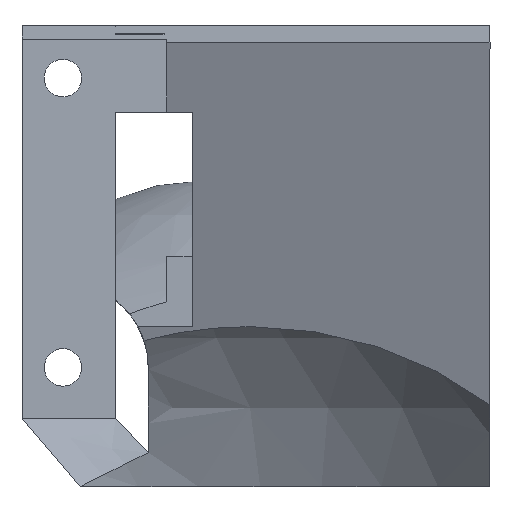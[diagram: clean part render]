
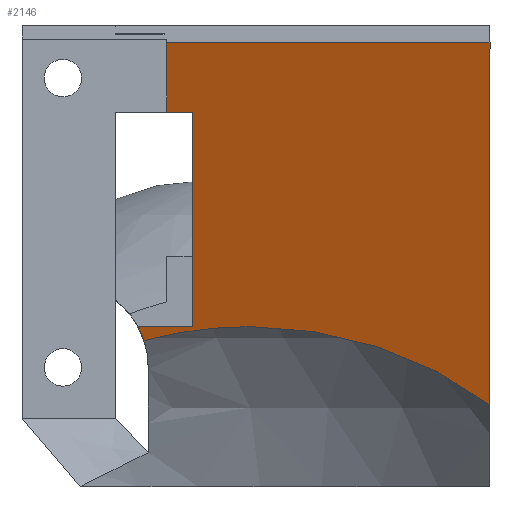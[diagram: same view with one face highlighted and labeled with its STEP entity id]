
A CAD part, left-side view. The second image highlights one B-rep face of the part: STEP entity #2146.
In plain terms, the highlighted planar face has unit normal (-0.931, 0, -0.364).
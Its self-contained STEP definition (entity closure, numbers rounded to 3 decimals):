
#24=ELLIPSE('',#2307,5.392,5.021);
#126=PLANE('',#2308);
#233=FACE_OUTER_BOUND('',#360,.T.);
#360=EDGE_LOOP('',(#1771,#1772,#1773,#1774,#1775,#1776,#1777,#1778,#1779,
#1780));
#448=CIRCLE('',#2285,22.617);
#450=CIRCLE('',#2287,22.617);
#626=LINE('',#3544,#850);
#627=LINE('',#3545,#851);
#628=LINE('',#3547,#852);
#629=LINE('',#3549,#853);
#630=LINE('',#3551,#854);
#631=LINE('',#3552,#855);
#632=LINE('',#3553,#856);
#850=VECTOR('',#2741,10.);
#851=VECTOR('',#2742,10.);
#852=VECTOR('',#2743,10.);
#853=VECTOR('',#2744,10.);
#854=VECTOR('',#2745,10.);
#855=VECTOR('',#2746,10.);
#856=VECTOR('',#2747,10.);
#967=VERTEX_POINT('',#3091);
#1058=VERTEX_POINT('',#3469);
#1059=VERTEX_POINT('',#3471);
#1061=VERTEX_POINT('',#3475);
#1078=VERTEX_POINT('',#3527);
#1080=VERTEX_POINT('',#3542);
#1081=VERTEX_POINT('',#3543);
#1082=VERTEX_POINT('',#3546);
#1083=VERTEX_POINT('',#3548);
#1084=VERTEX_POINT('',#3550);
#1314=EDGE_CURVE('',#1058,#1059,#448,.T.);
#1316=EDGE_CURVE('',#1059,#1061,#450,.T.);
#1339=EDGE_CURVE('',#1061,#1078,#24,.T.);
#1340=EDGE_CURVE('',#1080,#1081,#626,.T.);
#1341=EDGE_CURVE('',#967,#1081,#627,.T.);
#1342=EDGE_CURVE('',#1082,#967,#628,.T.);
#1343=EDGE_CURVE('',#1082,#1083,#629,.T.);
#1344=EDGE_CURVE('',#1083,#1084,#630,.T.);
#1345=EDGE_CURVE('',#1084,#1078,#631,.T.);
#1346=EDGE_CURVE('',#1080,#1058,#632,.T.);
#1771=ORIENTED_EDGE('',*,*,#1340,.T.);
#1772=ORIENTED_EDGE('',*,*,#1341,.F.);
#1773=ORIENTED_EDGE('',*,*,#1342,.F.);
#1774=ORIENTED_EDGE('',*,*,#1343,.T.);
#1775=ORIENTED_EDGE('',*,*,#1344,.T.);
#1776=ORIENTED_EDGE('',*,*,#1345,.T.);
#1777=ORIENTED_EDGE('',*,*,#1339,.F.);
#1778=ORIENTED_EDGE('',*,*,#1316,.F.);
#1779=ORIENTED_EDGE('',*,*,#1314,.F.);
#1780=ORIENTED_EDGE('',*,*,#1346,.F.);
#2146=ADVANCED_FACE('',(#233),#126,.T.);
#2285=AXIS2_PLACEMENT_3D('',#3472,#2690,#2691);
#2287=AXIS2_PLACEMENT_3D('',#3476,#2694,#2695);
#2307=AXIS2_PLACEMENT_3D('',#3540,#2737,#2738);
#2308=AXIS2_PLACEMENT_3D('',#3541,#2739,#2740);
#2690=DIRECTION('center_axis',(-0.931,0.,
-0.364));
#2691=DIRECTION('ref_axis',(-0.364,0.,0.931));
#2694=DIRECTION('center_axis',(-0.931,0.,
-0.364));
#2695=DIRECTION('ref_axis',(-0.364,0.,0.931));
#2737=DIRECTION('center_axis',(-0.931,0.,
-0.364));
#2738=DIRECTION('ref_axis',(-0.364,0.,0.931));
#2739=DIRECTION('center_axis',(-0.931,0.,
-0.364));
#2740=DIRECTION('ref_axis',(0.,-1.,0.));
#2741=DIRECTION('',(0.,1.,0.));
#2742=DIRECTION('',(-0.364,0.,0.931));
#2743=DIRECTION('',(-0.364,0.,0.931));
#2744=DIRECTION('',(0.,-1.,0.));
#2745=DIRECTION('',(0.364,0.,-0.931));
#2746=DIRECTION('',(0.,1.,0.));
#2747=DIRECTION('',(0.364,0.,-0.931));
#3091=CARTESIAN_POINT('',(-3.111,-17.,42.727));
#3469=CARTESIAN_POINT('',(4.684,-36.,22.808));
#3471=CARTESIAN_POINT('',(2.887,-21.903,27.399));
#3472=CARTESIAN_POINT('Origin',(11.129,-21.903,6.337));
#3475=CARTESIAN_POINT('',(3.207,-15.668,26.583));
#3476=CARTESIAN_POINT('Origin',(11.129,-21.903,6.337));
#3527=CARTESIAN_POINT('',(2.889,-15.317,27.394));
#3540=CARTESIAN_POINT('Origin',(3.826,-10.903,25.));
#3541=CARTESIAN_POINT('Origin',(2.99,-31.,27.137));
#3542=CARTESIAN_POINT('',(-3.642,-36.,44.084));
#3543=CARTESIAN_POINT('',(-3.642,-17.,44.084));
#3544=CARTESIAN_POINT('',(-3.642,-33.5,44.084));
#3545=CARTESIAN_POINT('',(-4.,-17.,45.));
#3546=CARTESIAN_POINT('',(-2.043,-17.,40.));
#3547=CARTESIAN_POINT('',(-4.,-17.,45.));
#3548=CARTESIAN_POINT('',(-2.043,-18.5,40.));
#3549=CARTESIAN_POINT('',(-2.043,-23.625,40.));
#3550=CARTESIAN_POINT('',(2.889,-18.5,27.394));
#3551=CARTESIAN_POINT('',(2.129,-18.5,29.338));
#3552=CARTESIAN_POINT('',(2.889,-23.625,27.394));
#3553=CARTESIAN_POINT('',(5.105,-36.,21.732));
